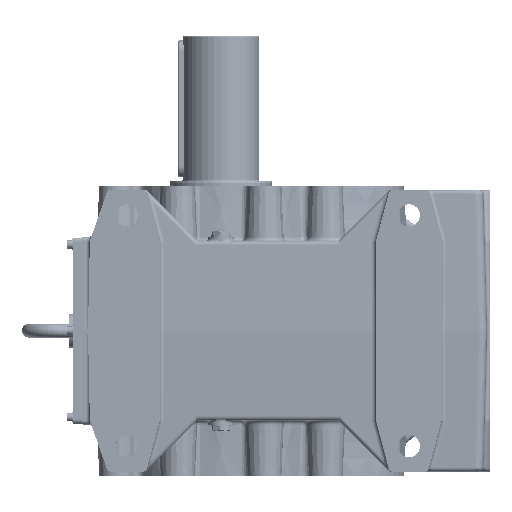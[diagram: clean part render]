
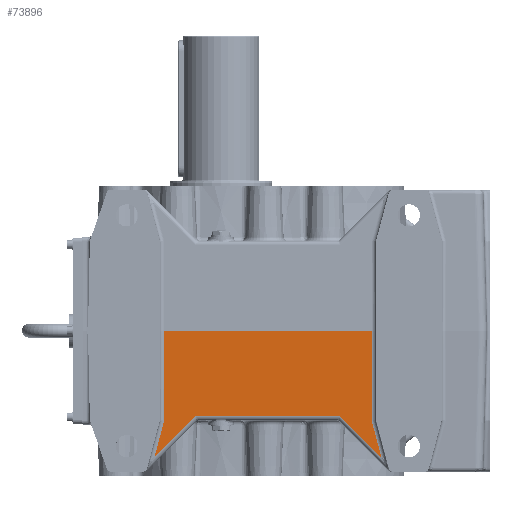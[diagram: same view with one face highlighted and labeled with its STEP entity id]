
A CAD part, left-side view. The second image highlights one B-rep face of the part: STEP entity #73896.
In plain terms, the highlighted planar face has unit normal (-1, 0, -0.026).
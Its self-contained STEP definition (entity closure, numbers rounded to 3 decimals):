
#49505=CARTESIAN_POINT('',(-192.128,-139.571,-100.131));
#49506=VERTEX_POINT('',#49505);
#49514=CARTESIAN_POINT('',(-192.128,29.571,-100.131));
#49515=VERTEX_POINT('',#49514);
#49516=CARTESIAN_POINT('',(-192.128,-139.571,-100.131));
#49517=DIRECTION('',(0.0,1.0,0.0));
#49518=VECTOR('',#49517,169.142);
#49519=LINE('',#49516,#49518);
#49520=EDGE_CURVE('',#49506,#49515,#49519,.T.);
#55900=CARTESIAN_POINT('',(-191.986,66.5,-105.524));
#55901=VERTEX_POINT('',#55900);
#55926=CARTESIAN_POINT('',(-194.75,66.5,0.0));
#55927=VERTEX_POINT('',#55926);
#55928=CARTESIAN_POINT('',(-191.986,66.5,-105.524));
#55929=DIRECTION('',(-0.026,0.0,1.));
#55930=VECTOR('',#55929,105.561);
#55931=LINE('',#55928,#55930);
#55932=EDGE_CURVE('',#55901,#55927,#55931,.T.);
#55959=CARTESIAN_POINT('',(-190.86,77.967,-148.527));
#55960=VERTEX_POINT('',#55959);
#55968=CARTESIAN_POINT('',(-190.86,77.967,-148.527));
#55969=DIRECTION('',(-0.025,-0.258,0.966));
#55970=VECTOR('',#55969,44.52);
#55971=LINE('',#55968,#55970);
#55972=EDGE_CURVE('',#55960,#55901,#55971,.T.);
#56426=CARTESIAN_POINT('',(-191.986,-176.5,-105.524));
#56427=VERTEX_POINT('',#56426);
#56521=CARTESIAN_POINT('',(-190.86,-187.967,-148.527));
#56522=VERTEX_POINT('',#56521);
#56523=CARTESIAN_POINT('',(-191.986,-176.5,-105.524));
#56524=DIRECTION('',(0.025,-0.258,-0.966));
#56525=VECTOR('',#56524,44.52);
#56526=LINE('',#56523,#56525);
#56527=EDGE_CURVE('',#56427,#56522,#56526,.T.);
#57969=CARTESIAN_POINT('',(-194.75,-176.5,0.0));
#57970=VERTEX_POINT('',#57969);
#57978=CARTESIAN_POINT('',(-194.75,-176.5,0.));
#57979=DIRECTION('',(0.026,0.0,-1.));
#57980=VECTOR('',#57979,105.561);
#57981=LINE('',#57978,#57980);
#57982=EDGE_CURVE('',#57970,#56427,#57981,.T.);
#59939=CARTESIAN_POINT('',(-190.86,-187.967,-148.527));
#59940=DIRECTION('',(-0.019,0.707,0.707));
#59941=VECTOR('',#59940,68.455);
#59942=LINE('',#59939,#59941);
#59943=EDGE_CURVE('',#56522,#49506,#59942,.T.);
#60116=CARTESIAN_POINT('',(-192.128,29.571,-100.131));
#60117=DIRECTION('',(0.019,0.707,-0.707));
#60118=VECTOR('',#60117,68.455);
#60119=LINE('',#60116,#60118);
#60120=EDGE_CURVE('',#49515,#55960,#60119,.T.);
#73850=CARTESIAN_POINT('',(-194.75,66.5,0.0));
#73851=DIRECTION('',(0.0,-1.0,0.0));
#73852=VECTOR('',#73851,243.0);
#73853=LINE('',#73850,#73852);
#73854=EDGE_CURVE('',#55927,#57970,#73853,.T.);
#73881=CARTESIAN_POINT('',(-194.749,-307.0,-0.036));
#73882=DIRECTION('',(1.,0.,0.026));
#73883=DIRECTION('',(0.026,0.,-1.));
#73884=AXIS2_PLACEMENT_3D('',#73881,#73882,#73883);
#73885=PLANE('',#73884);
#73886=ORIENTED_EDGE('',*,*,#55972,.F.);
#73887=ORIENTED_EDGE('',*,*,#60120,.F.);
#73888=ORIENTED_EDGE('',*,*,#49520,.F.);
#73889=ORIENTED_EDGE('',*,*,#59943,.F.);
#73890=ORIENTED_EDGE('',*,*,#56527,.F.);
#73891=ORIENTED_EDGE('',*,*,#57982,.F.);
#73892=ORIENTED_EDGE('',*,*,#73854,.F.);
#73893=ORIENTED_EDGE('',*,*,#55932,.F.);
#73894=EDGE_LOOP('',(#73886,#73887,#73888,#73889,#73890,#73891,#73892,#73893));
#73895=FACE_OUTER_BOUND('',#73894,.T.);
#73896=ADVANCED_FACE('',(#73895),#73885,.F.);
